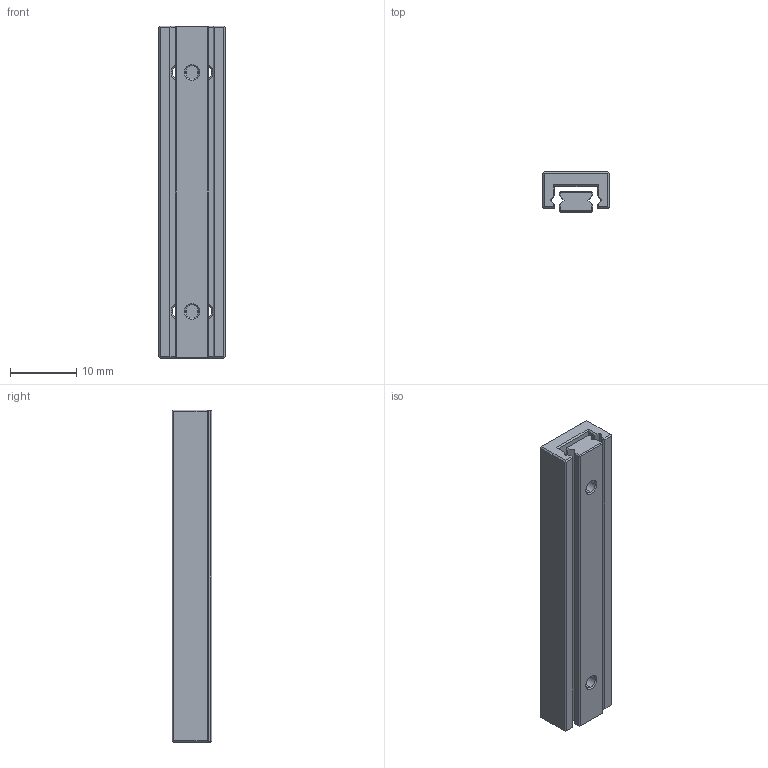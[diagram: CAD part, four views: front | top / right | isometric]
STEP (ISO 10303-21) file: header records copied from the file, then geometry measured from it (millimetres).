
FILE_DESCRIPTION (( 'STEP AP214' ), '1' );
FILE_NAME ('PMM 1-50.STEP', '2012-03-02T10:45:08', ( '' ), ( '' ), 'SwSTEP 2.0', 'SolidWorks 2011', '' );
FILE_SCHEMA (( 'AUTOMOTIVE_DESIGN' ));
Length unit declared in the file: millimetre
Products named in the file (1): PMM 1-50
Bounding box: 10 x 6 x 50 mm (x, y, z)
Volume: 2270.8 mm3; surface area: 2874 mm2
Topology: 2 solids, 2 shells, 256 faces, 696 edges, 460 vertices
Faces by surface type: plane 174, bspline 43, cone 24, cylinder 15
Entity records: 11893 total; most frequent: CARTESIAN_POINT 4024, ORIENTED_EDGE 1392, DIRECTION 1108, EDGE_CURVE 696, LINE 540, VECTOR 540, VERTEX_POINT 460, AXIS2_PLACEMENT_3D 284
